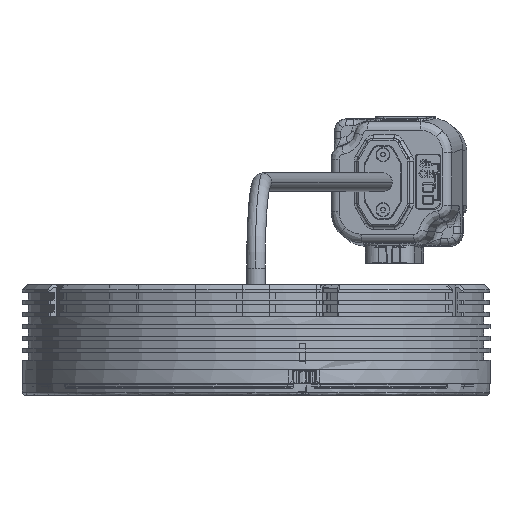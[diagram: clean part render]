
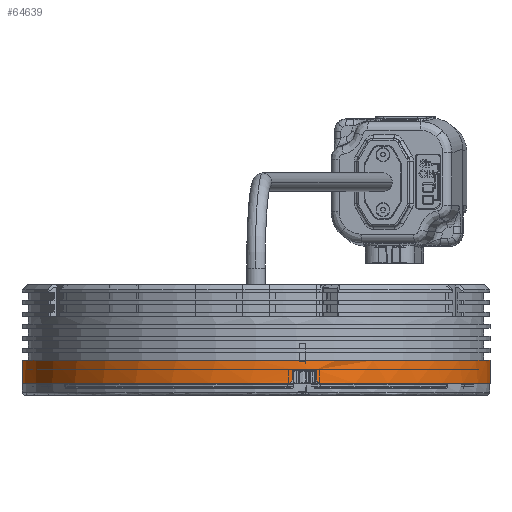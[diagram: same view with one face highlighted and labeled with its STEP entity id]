
A CAD part, front view. The second image highlights one B-rep face of the part: STEP entity #64639.
In plain terms, the highlighted cylindrical face has radius 68 mm (diameter 136 mm), a partial arc.
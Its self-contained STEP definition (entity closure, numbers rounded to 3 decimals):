
#1486 = ORIENTED_EDGE ( 'NONE', *, *, #51851, .T. ) ;
#2230 = VECTOR ( 'NONE', #10539, 1000. ) ;
#5991 = LINE ( 'NONE', #44853, #21313 ) ;
#6543 = ORIENTED_EDGE ( 'NONE', *, *, #57616, .T. ) ;
#7072 = CARTESIAN_POINT ( 'NONE',  ( 0., 0., 0. ) ) ;
#7221 = CIRCLE ( 'NONE', #39435, 68. ) ;
#7999 = VERTEX_POINT ( 'NONE', #25770 ) ;
#8378 = ORIENTED_EDGE ( 'NONE', *, *, #83793, .T. ) ;
#10152 = ORIENTED_EDGE ( 'NONE', *, *, #65917, .T. ) ;
#10539 = DIRECTION ( 'NONE',  ( 0., 0., -1. ) ) ;
#12731 = ORIENTED_EDGE ( 'NONE', *, *, #16708, .T. ) ;
#13109 = DIRECTION ( 'NONE',  ( 1., 0., 0. ) ) ;
#14159 = DIRECTION ( 'NONE',  ( 1., 0., 0. ) ) ;
#14386 = EDGE_LOOP ( 'NONE', ( #99432, #90761, #12731, #6543, #8378, #43162, #55756, #1486, #10152, #38121 ) ) ;
#15029 = CARTESIAN_POINT ( 'NONE',  ( 10.7, -67.153, 4. ) ) ;
#15925 = CARTESIAN_POINT ( 'NONE',  ( 68., 0., 0. ) ) ;
#16267 = CIRCLE ( 'NONE', #46894, 68. ) ;
#16708 = EDGE_CURVE ( 'NONE', #7999, #26071, #76375, .T. ) ;
#18063 = DIRECTION ( 'NONE',  ( -1., 0., 0. ) ) ;
#18227 = VERTEX_POINT ( 'NONE', #56334 ) ;
#18269 = DIRECTION ( 'NONE',  ( 0., 0., -1. ) ) ;
#19942 = CARTESIAN_POINT ( 'NONE',  ( 10.042, -67.255, 0.333 ) ) ;
#20667 = CARTESIAN_POINT ( 'NONE',  ( 0., 0., 0. ) ) ;
#20734 = VECTOR ( 'NONE', #31942, 1000. ) ;
#20745 = VERTEX_POINT ( 'NONE', #15029 ) ;
#21019 = VECTOR ( 'NONE', #86197, 1000. ) ;
#21313 = VECTOR ( 'NONE', #82188, 1000. ) ;
#21661 = EDGE_CURVE ( 'NONE', #20745, #46794, #39300, .T. ) ;
#21688 = VERTEX_POINT ( 'NONE', #55447 ) ;
#21933 = CARTESIAN_POINT ( 'NONE',  ( 18.503, -65.434, 0. ) ) ;
#22643 =( BOUNDED_CURVE ( )  B_SPLINE_CURVE ( 3, ( #65304, #50678, #29965, #53668 ),
 .UNSPECIFIED., .F., .F. ) 
 B_SPLINE_CURVE_WITH_KNOTS ( ( 4, 4 ),
 ( 4.712, 4.727 ),
 .UNSPECIFIED. ) 
 CURVE ( )  GEOMETRIC_REPRESENTATION_ITEM ( )  RATIONAL_B_SPLINE_CURVE ( ( 1., 1., 1., 1. ) ) 
 REPRESENTATION_ITEM ( '' )  );
#22749 = DIRECTION ( 'NONE',  ( 0., 0., 1. ) ) ;
#25332 = CARTESIAN_POINT ( 'NONE',  ( 0., 0., 4. ) ) ;
#25463 = CARTESIAN_POINT ( 'NONE',  ( 17.538, -65.699, 1. ) ) ;
#25770 = CARTESIAN_POINT ( 'NONE',  ( -68., 0., 6.7 ) ) ;
#26071 = VERTEX_POINT ( 'NONE', #88676 ) ;
#29965 = CARTESIAN_POINT ( 'NONE',  ( 18.182, -65.525, 0.333 ) ) ;
#31323 = CARTESIAN_POINT ( 'NONE',  ( 0., 0., 6.7 ) ) ;
#31942 = DIRECTION ( 'NONE',  ( 0., 0., -1. ) ) ;
#35600 = CARTESIAN_POINT ( 'NONE',  ( 10.7, -67.153, 1. ) ) ;
#36283 = CARTESIAN_POINT ( 'NONE',  ( 10.7, -67.153, 1. ) ) ;
#38019 = CARTESIAN_POINT ( 'NONE',  ( -68., 0., 28.7 ) ) ;
#38121 = ORIENTED_EDGE ( 'NONE', *, *, #90945, .T. ) ;
#39300 = LINE ( 'NONE', #94727, #21019 ) ;
#39435 = AXIS2_PLACEMENT_3D ( 'NONE', #7072, #44936, #51501 ) ;
#42314 = LINE ( 'NONE', #79682, #2230 ) ;
#42744 = CYLINDRICAL_SURFACE ( 'NONE', #85919, 68. ) ;
#43162 = ORIENTED_EDGE ( 'NONE', *, *, #21661, .F. ) ;
#44853 = CARTESIAN_POINT ( 'NONE',  ( 17.538, -65.699, 4. ) ) ;
#44936 = DIRECTION ( 'NONE',  ( 0., 0., 1. ) ) ;
#46794 = VERTEX_POINT ( 'NONE', #36283 ) ;
#46894 = AXIS2_PLACEMENT_3D ( 'NONE', #25332, #18269, #71746 ) ;
#48057 = EDGE_CURVE ( 'NONE', #75196, #63726, #42314, .T. ) ;
#48198 = CIRCLE ( 'NONE', #65901, 68. ) ;
#50255 = EDGE_CURVE ( 'NONE', #21688, #20745, #16267, .T. ) ;
#50546 = EDGE_CURVE ( 'NONE', #7999, #75196, #74302, .T. ) ;
#50678 = CARTESIAN_POINT ( 'NONE',  ( 17.86, -65.613, 0.667 ) ) ;
#51462 = DIRECTION ( 'NONE',  ( 0., 0., 1. ) ) ;
#51501 = DIRECTION ( 'NONE',  ( 1., 0., 0. ) ) ;
#51851 = EDGE_CURVE ( 'NONE', #21688, #92923, #5991, .T. ) ;
#53668 = CARTESIAN_POINT ( 'NONE',  ( 18.503, -65.434, 0. ) ) ;
#55447 = CARTESIAN_POINT ( 'NONE',  ( 17.538, -65.699, 4. ) ) ;
#55756 = ORIENTED_EDGE ( 'NONE', *, *, #50255, .F. ) ;
#56334 = CARTESIAN_POINT ( 'NONE',  ( 9.712, -67.303, 0. ) ) ;
#57616 = EDGE_CURVE ( 'NONE', #26071, #18227, #48198, .T. ) ;
#61145 = CARTESIAN_POINT ( 'NONE',  ( 68., 0., 6.7 ) ) ;
#63726 = VERTEX_POINT ( 'NONE', #15925 ) ;
#64639 = ADVANCED_FACE ( 'NONE', ( #72040 ), #42744, .T. ) ;
#65304 = CARTESIAN_POINT ( 'NONE',  ( 17.538, -65.699, 1. ) ) ;
#65901 = AXIS2_PLACEMENT_3D ( 'NONE', #20667, #51462, #13109 ) ;
#65917 = EDGE_CURVE ( 'NONE', #92923, #74782, #22643, .T. ) ;
#69504 = AXIS2_PLACEMENT_3D ( 'NONE', #31323, #22749, #14159 ) ;
#71746 = DIRECTION ( 'NONE',  ( -1., 0., 0. ) ) ;
#72040 = FACE_OUTER_BOUND ( 'NONE', #14386, .T. ) ;
#74302 = CIRCLE ( 'NONE', #69504, 68. ) ;
#74782 = VERTEX_POINT ( 'NONE', #21933 ) ;
#75196 = VERTEX_POINT ( 'NONE', #61145 ) ;
#76375 = LINE ( 'NONE', #38019, #20734 ) ;
#77135 =( BOUNDED_CURVE ( )  B_SPLINE_CURVE ( 3, ( #82506, #19942, #96640, #35600 ),
 .UNSPECIFIED., .F., .F. ) 
 B_SPLINE_CURVE_WITH_KNOTS ( ( 4, 4 ),
 ( 1.556, 1.571 ),
 .UNSPECIFIED. ) 
 CURVE ( )  GEOMETRIC_REPRESENTATION_ITEM ( )  RATIONAL_B_SPLINE_CURVE ( ( 1., 1., 1., 1. ) ) 
 REPRESENTATION_ITEM ( '' )  );
#79682 = CARTESIAN_POINT ( 'NONE',  ( 68., 0., 28.7 ) ) ;
#82188 = DIRECTION ( 'NONE',  ( 0., 0., -1. ) ) ;
#82506 = CARTESIAN_POINT ( 'NONE',  ( 9.712, -67.303, 0. ) ) ;
#83793 = EDGE_CURVE ( 'NONE', #18227, #46794, #77135, .T. ) ;
#85919 = AXIS2_PLACEMENT_3D ( 'NONE', #87179, #95738, #18063 ) ;
#86197 = DIRECTION ( 'NONE',  ( 0., 0., -1. ) ) ;
#87179 = CARTESIAN_POINT ( 'NONE',  ( 0., 0., 28.7 ) ) ;
#88676 = CARTESIAN_POINT ( 'NONE',  ( -68., 0., 0. ) ) ;
#90761 = ORIENTED_EDGE ( 'NONE', *, *, #50546, .F. ) ;
#90945 = EDGE_CURVE ( 'NONE', #74782, #63726, #7221, .T. ) ;
#92923 = VERTEX_POINT ( 'NONE', #25463 ) ;
#94727 = CARTESIAN_POINT ( 'NONE',  ( 10.7, -67.153, 4. ) ) ;
#95738 = DIRECTION ( 'NONE',  ( 0., 0., -1. ) ) ;
#96640 = CARTESIAN_POINT ( 'NONE',  ( 10.371, -67.205, 0.667 ) ) ;
#99432 = ORIENTED_EDGE ( 'NONE', *, *, #48057, .F. ) ;
